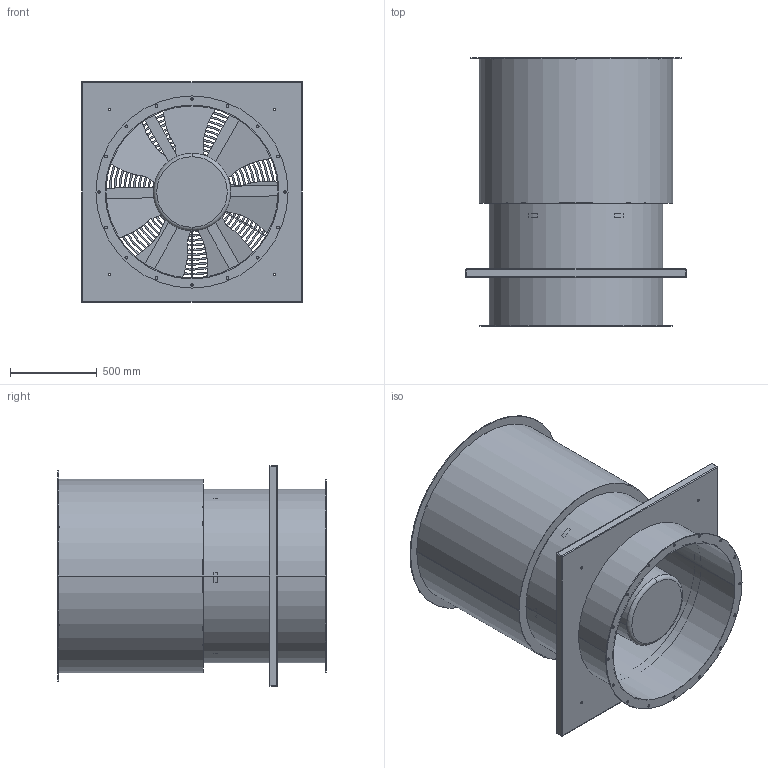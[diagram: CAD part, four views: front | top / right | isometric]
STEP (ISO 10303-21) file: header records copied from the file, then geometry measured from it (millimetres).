
FILE_DESCRIPTION(('STEP AP214'),'1');
FILE_NAME('hght-v-1000.stp','2017-09-12T16:25:52',('TraceParts'),('TraceParts S.A.'),'Spatial InterOp 3D',' ',' ');
FILE_SCHEMA(('automotive_design'));
Length unit declared in the file: millimetre
Products named in the file (1): hght-v-1000
Bounding box: 1270 x 1543 x 1270 mm (x, y, z)
Volume: 176575195 mm3; surface area: 17050954.1 mm2
Topology: 1 solids, 1 shells, 499 faces, 1591 edges, 866 vertices
Faces by surface type: torus 308, cylinder 114, plane 69, sphere 8
Entity records: 45621 total; most frequent: CARTESIAN_POINT 27873, ORIENTED_EDGE 3166, DIRECTION 2787, EDGE_CURVE 1583, AXIS2_PLACEMENT_3D 1172, VERTEX_POINT 866, CIRCLE 628, EDGE_LOOP 569
